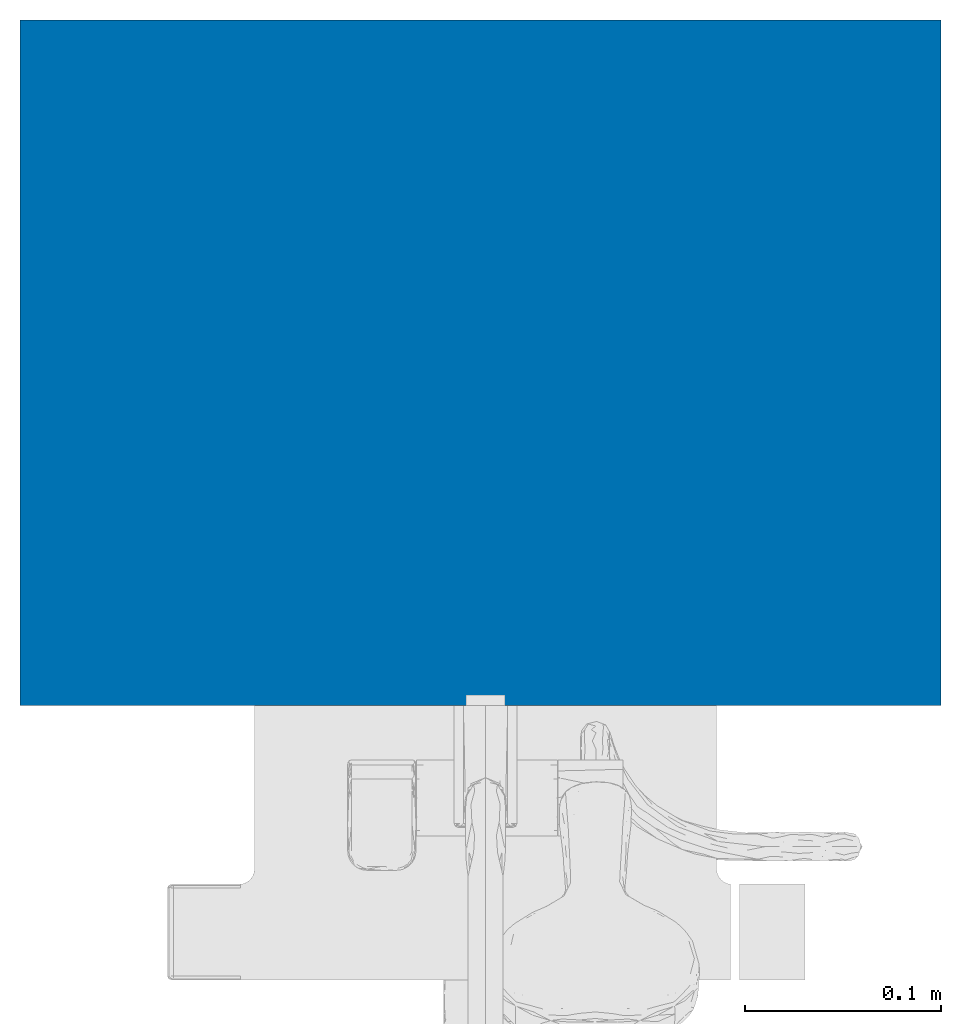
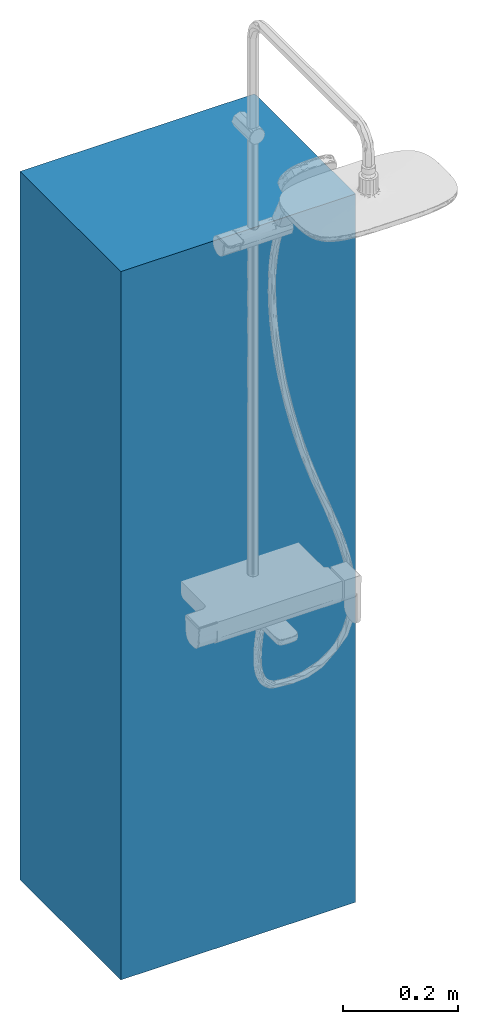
# One storey, incomplete: 1 wall.
"""IFC2X3 building model written with IfcOpenShell, lengths in millimetres."""

import ifcopenshell
import ifcopenshell.guid

model = None  # the IFC model being written
_history = None  # IfcOwnerHistory: only IFC2X3 demands one
_inside = {}  # id of a spatial element -> (the spatial element, [elements in it])
_under = {}  # id of a project, library or spatial element -> (it, [spatial elements below it])
_declared = {}  # id of a project -> (the project, [libraries it declares])
_typed = {}  # id of a type object -> (the type object, [elements of that type])
_made_of = {}  # id of a material, layer set ... -> (it, [elements and type objects made of it])


def new_model(schema):
    """Start an empty IFC model of exactly this schema.

    Asked for "IFC4X3", IfcOpenShell would pick the latest addendum, in which some entities
    have other attributes; the version numbers below select the first issue.
    IFC2X3 requires an IfcOwnerHistory on every rooted entity: one is made here for all.
    """
    global model, _history
    if schema == "IFC4X3":
        model = ifcopenshell.file(schema_version=(4, 3, 0, 0))
    else:
        model = ifcopenshell.file(schema=schema)
    _inside.clear()
    _under.clear()
    _declared.clear()
    _typed.clear()
    _made_of.clear()
    _history = None
    if model.schema == "IFC2X3":
        org = make("IfcOrganization", Name="unknown")
        user = make(
            "IfcPersonAndOrganization",
            ThePerson=make("IfcPerson", FamilyName="unknown"),
            TheOrganization=org,
        )
        app = make(
            "IfcApplication",
            ApplicationDeveloper=org,
            Version="unknown",
            ApplicationFullName="unknown",
            ApplicationIdentifier="unknown",
        )
        _history = make(
            "IfcOwnerHistory",
            OwningUser=user,
            OwningApplication=app,
            ChangeAction="ADDED",
            CreationDate=0,
        )
    return model


def make(cls, **values):
    """One entity of the class cls with the attributes given. An attribute that is None is left unset."""
    return model.create_entity(
        cls, **{name: value for name, value in values.items() if value is not None}
    )


def entity(cls, *values):
    """Any entity or typed value of the class cls, its attributes in the order of the schema. None: left unset."""
    e = model.create_entity(cls)
    for i, value in enumerate(values):
        if value is not None:
            e[i] = value
    return e


def rooted(cls, **values):
    """An entity with a GlobalId (a new one), such as an element, a storey or a relation."""
    return make(cls, GlobalId=ifcopenshell.guid.new(), OwnerHistory=_history, **values)


def si_unit(unit_type, name, prefix=None):
    """IfcSIUnit, for example si_unit("LENGTHUNIT", "METRE", prefix="MILLI")."""
    return make("IfcSIUnit", UnitType=unit_type, Prefix=prefix, Name=name)


def converted_unit(unit_type, name, factor, base, dimensions=None, offset=None):
    """IfcConversionBasedUnit, such as the inch: factor (a typed value) times the base unit."""
    return make(
        "IfcConversionBasedUnit"
        if offset is None
        else "IfcConversionBasedUnitWithOffset",
        ConversionOffset=offset,
        Dimensions=None
        if dimensions is None
        else entity("IfcDimensionalExponents", *dimensions),
        UnitType=unit_type,
        Name=name,
        ConversionFactor=make(
            "IfcMeasureWithUnit", ValueComponent=factor, UnitComponent=base
        ),
    )


def derived_unit(unit_type, elements):
    """IfcDerivedUnit: a product of units, each with its exponent."""
    return make(
        "IfcDerivedUnit",
        Elements=[
            make("IfcDerivedUnitElement", Unit=unit, Exponent=power)
            for unit, power in elements
        ],
        UnitType=unit_type,
    )


def assignment(units):
    """IfcUnitAssignment: the units of a project."""
    return None if units is None else make("IfcUnitAssignment", Units=units)


def point(xyz):
    """IfcCartesianPoint."""
    return None if xyz is None else make("IfcCartesianPoint", Coordinates=xyz)


def direction(xyz):
    """IfcDirection."""
    return None if xyz is None else make("IfcDirection", DirectionRatios=xyz)


def frame(location, z_axis=None, x_axis=None):
    """IfcAxis2Placement3D, a coordinate frame: its origin and axes. An axis left out is left unset."""
    return make(
        "IfcAxis2Placement3D",
        Location=point(location),
        Axis=direction(z_axis),
        RefDirection=direction(x_axis),
    )


def frame_2d(location, x_axis=None):
    """IfcAxis2Placement2D, a coordinate frame in the plane: its origin and x axis."""
    return make(
        "IfcAxis2Placement2D", Location=point(location), RefDirection=direction(x_axis)
    )


def origin():
    """The frame at (0, 0, 0) with its axes left unset."""
    return frame((0.0, 0.0, 0.0))


def place(relative_to, where):
    """IfcLocalPlacement: puts the frame where relative to a parent placement (None: the world)."""
    return make(
        "IfcLocalPlacement", PlacementRelTo=relative_to, RelativePlacement=where
    )


def context(
    kind, dimensions, precision=None, world=None, true_north=None, identifier=None
):
    """IfcGeometricRepresentationContext, for example the 3D "Model" context."""
    return make(
        "IfcGeometricRepresentationContext",
        ContextIdentifier=identifier,
        ContextType=kind,
        CoordinateSpaceDimension=dimensions,
        Precision=precision,
        WorldCoordinateSystem=world,
        TrueNorth=true_north,
    )


def subcontext(parent, identifier, kind, view, scale=None):
    """IfcGeometricRepresentationSubContext, for example "Body" below "Model"."""
    return make(
        "IfcGeometricRepresentationSubContext",
        ContextIdentifier=identifier,
        ContextType=kind,
        ParentContext=parent,
        TargetScale=scale,
        TargetView=view,
    )


def project(units=None, contexts=None):
    """IfcProject with its units and contexts."""
    return rooted(
        "IfcProject",
        Name="project",
        RepresentationContexts=contexts,
        UnitsInContext=assignment(units),
    )


def spatial(cls, under=None, at=None, **own):
    """A site, building, storey or space (cls), placed at a placement, below another one or the project."""
    s = rooted(cls, ObjectPlacement=at, **own)
    if under is not None:
        _under.setdefault(under.id(), (under, []))[1].append(s)
    return s


def profile(cls, at=None, kind="AREA", **sizes):
    """A parametric profile (cls). Its sizes go by their IFC names, for example OverallWidth=200.0."""
    return make(cls, ProfileType=kind, Position=at, **sizes)


def rectangle(**sizes):
    """IfcRectangleProfileDef."""
    return profile("IfcRectangleProfileDef", **sizes)


def extrude(swept, where, along, depth):
    """IfcExtrudedAreaSolid: the profile swept, set in the frame where, extruded along a direction by depth."""
    return make(
        "IfcExtrudedAreaSolid",
        SweptArea=swept,
        Position=where,
        ExtrudedDirection=direction(along),
        Depth=depth,
    )


def shape(context_of_items, identifier, shape_type, items):
    """IfcShapeRepresentation: the items that make up one representation, for example the "Body"."""
    return make(
        "IfcShapeRepresentation",
        ContextOfItems=context_of_items,
        RepresentationIdentifier=identifier,
        RepresentationType=shape_type,
        Items=items,
    )


def material(Name=None, Category=None):
    """IfcMaterial."""
    return make("IfcMaterial", Name=Name, Category=Category)


def layer(
    of_material, thickness, ventilated=None, Name=None, Category=None, Priority=None
):
    """IfcMaterialLayer: one layer of a wall or slab, of a material (None: an air gap)."""
    return make(
        "IfcMaterialLayer",
        Material=of_material,
        LayerThickness=thickness,
        IsVentilated=ventilated,
        Name=Name,
        Category=Category,
        Priority=Priority,
    )


def layer_set(layers, Name=None):
    """IfcMaterialLayerSet."""
    return make("IfcMaterialLayerSet", MaterialLayers=layers, LayerSetName=Name)


def layer_usage(for_layer_set, set_direction, sense, offset, extent=None):
    """IfcMaterialLayerSetUsage: how a layer set lies in its element."""
    return make(
        "IfcMaterialLayerSetUsage",
        ForLayerSet=for_layer_set,
        LayerSetDirection=set_direction,
        DirectionSense=sense,
        OffsetFromReferenceLine=offset,
        ReferenceExtent=extent,
    )


def made_of(thing, what):
    """Note that an element or type object is made of a material, layer set ...; save() writes the relation."""
    if what is not None:
        _made_of.setdefault(what.id(), (what, []))[1].append(thing)
    return thing


def type_object(cls, material=None, **own):
    """A type object (cls), such as IfcWallType, which elements share."""
    return made_of(rooted(cls, **own), material)


def element(
    cls,
    number,
    at=None,
    inside=None,
    cuts=None,
    type_object=None,
    material=None,
    context=None,
    identifier="Body",
    shape_type=None,
    held_by="IfcProductDefinitionShape",
    body=None,
    shapes=None,
    **own,
):
    """One element of the class cls, such as IfcWall. Its Tag is "e" and its number.

    at: its placement. inside: the storey or other place that contains it. cuts: it is an
    opening in that element (IfcRelVoidsElement). A single representation is given by context,
    identifier, shape_type and body (its items); several are given by shapes. held_by: the class
    of the entity that holds the representations. save() writes the other relations.
    """
    e = rooted(cls, Tag="e%d" % number, ObjectPlacement=at, **own)
    if body is not None:
        shapes = [shape(context, identifier, shape_type, body)]
    if shapes is not None:
        e.Representation = make(held_by, Representations=shapes)
    if inside is not None:
        _inside.setdefault(inside.id(), (inside, []))[1].append(e)
    if cuts is not None:
        rooted(
            "IfcRelVoidsElement", RelatingBuildingElement=cuts, RelatedOpeningElement=e
        )
    if type_object is not None:
        _typed.setdefault(type_object.id(), (type_object, []))[1].append(e)
    return made_of(e, material)


def aggregate(whole, parts):
    """IfcRelAggregates: a whole, such as a stair, and the parts it consists of."""
    return rooted("IfcRelAggregates", RelatingObject=whole, RelatedObjects=parts)


def save(model, path):
    """Write the relations noted so far, then the file.

    IfcRelAggregates (storeys below a building ...), IfcRelContainedInSpatialStructure (elements
    in a storey), IfcRelDefinesByType, IfcRelAssociatesMaterial and IfcRelDeclares: one each for
    every whole, place, type object, material and project.
    """
    for whole, parts in _under.values():
        aggregate(whole, parts)
    for where, things in _inside.values():
        rooted(
            "IfcRelContainedInSpatialStructure",
            RelatedElements=things,
            RelatingStructure=where,
        )
    for kind, things in _typed.values():
        rooted("IfcRelDefinesByType", RelatedObjects=things, RelatingType=kind)
    for what, things in _made_of.values():
        rooted("IfcRelAssociatesMaterial", RelatedObjects=things, RelatingMaterial=what)
    for by, libraries in _declared.values():
        rooted("IfcRelDeclares", RelatingContext=by, RelatedDefinitions=libraries)
    model.write(path)


model = new_model("IFC2X3")

# Units and contexts
model_context = context("Model", 3, precision=0.01, world=origin(), true_north=direction((6.12303176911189e-17, 1.0)))
body_context = subcontext(model_context, "Body", "Model", "MODEL_VIEW")
ifc_project = project(units=[si_unit("LENGTHUNIT", "METRE", prefix="MILLI"), si_unit("AREAUNIT", "SQUARE_METRE"), si_unit("VOLUMEUNIT", "CUBIC_METRE"), converted_unit("PLANEANGLEUNIT", "DEGREE", entity("IfcRatioMeasure", 0.0174532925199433), si_unit("PLANEANGLEUNIT", "RADIAN"), dimensions=[0, 0, 0, 0, 0, 0, 0]), si_unit("MASSUNIT", "GRAM", prefix="KILO"), derived_unit("MASSDENSITYUNIT", [(si_unit("MASSUNIT", "GRAM", prefix="KILO"), 1), (si_unit("LENGTHUNIT", "METRE"), -3)]), si_unit("TIMEUNIT", "SECOND"), si_unit("FREQUENCYUNIT", "HERTZ"), si_unit("THERMODYNAMICTEMPERATUREUNIT", "DEGREE_CELSIUS"), derived_unit("THERMALTRANSMITTANCEUNIT", [(si_unit("MASSUNIT", "GRAM", prefix="KILO"), 1), (si_unit("THERMODYNAMICTEMPERATUREUNIT", "KELVIN"), -1), (si_unit("TIMEUNIT", "SECOND"), -3)]), derived_unit("VOLUMETRICFLOWRATEUNIT", [(si_unit("LENGTHUNIT", "METRE"), 3), (si_unit("TIMEUNIT", "SECOND"), -1)]), si_unit("ELECTRICCURRENTUNIT", "AMPERE"), si_unit("ELECTRICVOLTAGEUNIT", "VOLT"), si_unit("POWERUNIT", "WATT"), si_unit("FORCEUNIT", "NEWTON", prefix="KILO"), si_unit("ILLUMINANCEUNIT", "LUX"), si_unit("LUMINOUSFLUXUNIT", "LUMEN"), si_unit("LUMINOUSINTENSITYUNIT", "CANDELA"), derived_unit("USERDEFINED", [(si_unit("MASSUNIT", "GRAM", prefix="KILO"), -1), (si_unit("LENGTHUNIT", "METRE"), -2), (si_unit("TIMEUNIT", "SECOND"), 3), (si_unit("LUMINOUSFLUXUNIT", "LUMEN"), 1)]), derived_unit("LINEARVELOCITYUNIT", [(si_unit("LENGTHUNIT", "METRE"), 1), (si_unit("TIMEUNIT", "SECOND"), -1)]), si_unit("PRESSUREUNIT", "PASCAL"), derived_unit("USERDEFINED", [(si_unit("LENGTHUNIT", "METRE"), -2), (si_unit("MASSUNIT", "GRAM", prefix="KILO"), 1), (si_unit("TIMEUNIT", "SECOND"), -2)])], contexts=[model_context])

# Site, building, storey
site_placement = place(None, origin())
site = spatial("IfcSite", under=ifc_project, at=site_placement, Name="Default", CompositionType="ELEMENT")
building_placement = place(site_placement, origin())
building = spatial("IfcBuilding", under=site, at=building_placement, CompositionType="ELEMENT")
storey_placement = place(building_placement, origin())
storey = spatial("IfcBuildingStorey", under=building, at=storey_placement, Name="Level 1", CompositionType="ELEMENT", Elevation=0.0)

# Wall
ifc_material_1 = material(Name="Brick, Common")
ifc_layer_1 = layer(ifc_material_1, 90.0)
ifc_material_2 = material(Name="Air")
ifc_layer_2 = layer(ifc_material_2, 76.0)
ifc_material_3 = material(Name="Plywood, Sheathing")
ifc_layer_3 = layer(ifc_material_3, 19.0)
ifc_material_4 = material(Name="Metal Stud Layer")
ifc_layer_4 = layer(ifc_material_4, 152.0)
ifc_material_5 = material(Name="Gypsum Wall Board")
ifc_layer_5 = layer(ifc_material_5, 13.0)
ifc_layer_set = layer_set([ifc_layer_1, ifc_layer_2, ifc_layer_3, ifc_layer_4, ifc_layer_5], Name="Basic Wall:Exterior - Brick on Mtl. Stud")
ifc_layer_usage = layer_usage(ifc_layer_set, "AXIS2", "NEGATIVE", 175.0)
wall_type = type_object("IfcWallType", Name="Basic Wall:Exterior - Brick on Mtl. Stud", PredefinedType="STANDARD", material=ifc_layer_set)
wall_placement = place(storey_placement, frame((-1567.74732907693, 1785.99793284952, 0.0)))
element("IfcWallStandardCase", 1, at=wall_placement, inside=storey, type_object=wall_type, material=ifc_layer_usage, Name="Basic Wall:Exterior - Brick on Mtl. Stud", ObjectType="Basic Wall:Exterior - Brick on Mtl. Stud:397", context=body_context, shape_type="SweptSolid", body=[
    extrude(rectangle(XDim=470.0, YDim=350.0, at=frame_2d((235.0, 0.0), x_axis=(-1.0, 0.0))), origin(), (0.0, 0.0, 1.0), 1500.0),
])

save(model, "model.ifc")
